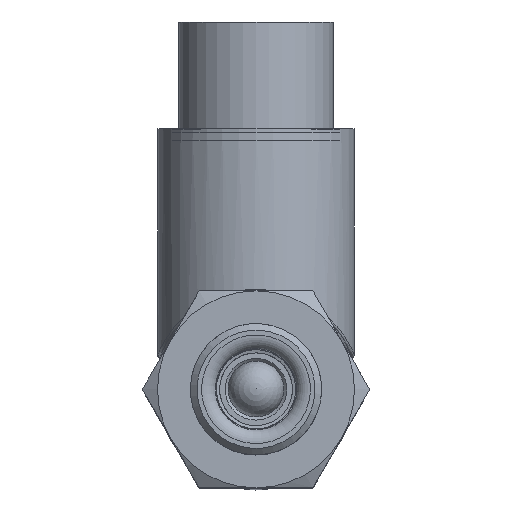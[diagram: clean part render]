
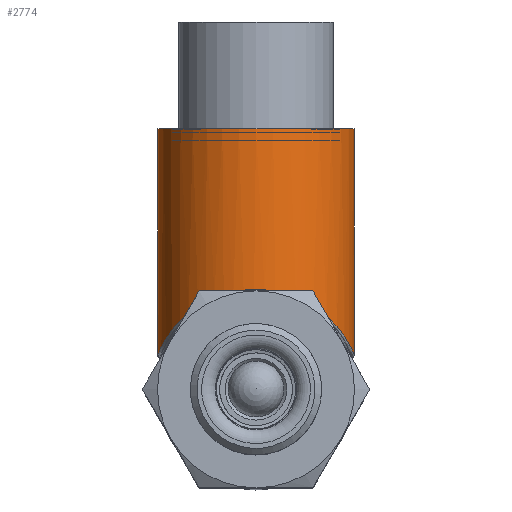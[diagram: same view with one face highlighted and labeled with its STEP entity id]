
A CAD part, top view. The second image highlights one B-rep face of the part: STEP entity #2774.
In plain terms, the highlighted cylindrical face has radius 9.525 mm (diameter 19.05 mm), a full revolution.
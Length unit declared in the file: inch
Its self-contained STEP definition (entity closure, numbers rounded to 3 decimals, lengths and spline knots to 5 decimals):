
#70=B_SPLINE_CURVE_WITH_KNOTS('',3,(#6676,#6677,#6678,#6679,#6680,#6681,
#6682,#6683,#6684,#6685,#6686,#6687,#6688,#6689,#6690,#6691,#6692,#6693,
#6694,#6695,#6696,#6697,#6698,#6699,#6700,#6701,#6702,#6703,#6704,#6705),
 .UNSPECIFIED.,.F.,.F.,(4,1,1,1,1,1,1,1,1,1,1,1,1,1,1,1,1,1,1,1,1,1,1,1,
1,1,1,4),(-9.63701,-9.40756,-9.17811,-8.7192,
-8.41326,-8.26029,-8.10733,-8.03084,
-7.95436,-7.80139,-7.49545,-7.18952,
-6.88358,-6.57764,-6.27171,-5.96577,
-5.65983,-5.35389,-5.04796,-4.89499,-4.81851,
-4.74202,-4.58905,-4.43608,-4.13015,
-3.67124,-3.44179,-3.21234),.UNSPECIFIED.);
#314=FACE_OUTER_BOUND('',#521,.T.);
#521=EDGE_LOOP('',(#1956,#1957,#1958,#1959));
#713=LINE('',#6755,#843);
#843=VECTOR('',#3698,0.375);
#1012=CIRCLE('',#3171,0.375);
#1210=VERTEX_POINT('',#6643);
#1214=VERTEX_POINT('',#6754);
#1483=EDGE_CURVE('',#1210,#1210,#70,.T.);
#1486=EDGE_CURVE('',#1214,#1210,#713,.T.);
#1487=EDGE_CURVE('',#1214,#1214,#1012,.T.);
#1956=ORIENTED_EDGE('',*,*,#1486,.F.);
#1957=ORIENTED_EDGE('',*,*,#1487,.F.);
#1958=ORIENTED_EDGE('',*,*,#1486,.T.);
#1959=ORIENTED_EDGE('',*,*,#1483,.F.);
#2491=CYLINDRICAL_SURFACE('',#3170,0.375);
#2774=ADVANCED_FACE('',(#314),#2491,.T.);
#3170=AXIS2_PLACEMENT_3D('',#6753,#3696,#3697);
#3171=AXIS2_PLACEMENT_3D('',#6756,#3699,#3700);
#3696=DIRECTION('center_axis',(0.,1.,0.));
#3697=DIRECTION('ref_axis',(0.,0.,1.));
#3698=DIRECTION('',(0.,-1.,0.));
#3699=DIRECTION('center_axis',(0.,1.,0.));
#3700=DIRECTION('ref_axis',(0.,0.,1.));
#6643=CARTESIAN_POINT('',(0.,0.3875,-1.62));
#6676=CARTESIAN_POINT('Ctrl Pts',(0.,0.3875,
-1.62));
#6677=CARTESIAN_POINT('Ctrl Pts',(0.03115,0.3875,
-1.62));
#6678=CARTESIAN_POINT('Ctrl Pts',(0.09334,0.38036,
-1.61213));
#6679=CARTESIAN_POINT('Ctrl Pts',(0.20461,0.34112,-1.56842));
#6680=CARTESIAN_POINT('Ctrl Pts',(0.29321,0.27238,-1.49027));
#6681=CARTESIAN_POINT('Ctrl Pts',(0.3437,0.20219,-1.40173));
#6682=CARTESIAN_POINT('Ctrl Pts',(0.36561,0.15992,-1.33432));
#6683=CARTESIAN_POINT('Ctrl Pts',(0.37367,0.14038,-1.28655));
#6684=CARTESIAN_POINT('Ctrl Pts',(0.37544,0.13578,-1.245));
#6685=CARTESIAN_POINT('Ctrl Pts',(0.37368,0.14032,-1.20338));
#6686=CARTESIAN_POINT('Ctrl Pts',(0.36228,0.16818,-1.13678));
#6687=CARTESIAN_POINT('Ctrl Pts',(0.32973,0.226,-1.05719));
#6688=CARTESIAN_POINT('Ctrl Pts',(0.26716,0.29414,-0.97483));
#6689=CARTESIAN_POINT('Ctrl Pts',(0.1787,0.35265,-0.90868));
#6690=CARTESIAN_POINT('Ctrl Pts',(0.06403,0.38892,
-0.86841));
#6691=CARTESIAN_POINT('Ctrl Pts',(-0.06405,0.38899,
-0.86832));
#6692=CARTESIAN_POINT('Ctrl Pts',(-0.17867,0.35265,-0.90872));
#6693=CARTESIAN_POINT('Ctrl Pts',(-0.26717,0.29409,
-0.97477));
#6694=CARTESIAN_POINT('Ctrl Pts',(-0.32974,0.226,-1.05726));
#6695=CARTESIAN_POINT('Ctrl Pts',(-0.36229,0.16812,-1.13674));
#6696=CARTESIAN_POINT('Ctrl Pts',(-0.37368,0.14033,
-1.20341));
#6697=CARTESIAN_POINT('Ctrl Pts',(-0.37544,0.13579,-1.24502));
#6698=CARTESIAN_POINT('Ctrl Pts',(-0.37367,0.1404,-1.28658));
#6699=CARTESIAN_POINT('Ctrl Pts',(-0.36561,0.15994,
-1.33435));
#6700=CARTESIAN_POINT('Ctrl Pts',(-0.34369,0.20219,
-1.40175));
#6701=CARTESIAN_POINT('Ctrl Pts',(-0.29321,0.27239,
-1.49028));
#6702=CARTESIAN_POINT('Ctrl Pts',(-0.20461,0.34111,
-1.56842));
#6703=CARTESIAN_POINT('Ctrl Pts',(-0.09334,0.38037,
-1.61214));
#6704=CARTESIAN_POINT('Ctrl Pts',(-0.03115,0.3875,
-1.62));
#6705=CARTESIAN_POINT('Ctrl Pts',(0.,0.3875,
-1.62));
#6753=CARTESIAN_POINT('Origin',(0.,0.47,
-1.245));
#6754=CARTESIAN_POINT('',(0.,1.,-1.62));
#6755=CARTESIAN_POINT('',(0.,0.47,-1.62));
#6756=CARTESIAN_POINT('Origin',(0.,1.,
-1.245));
